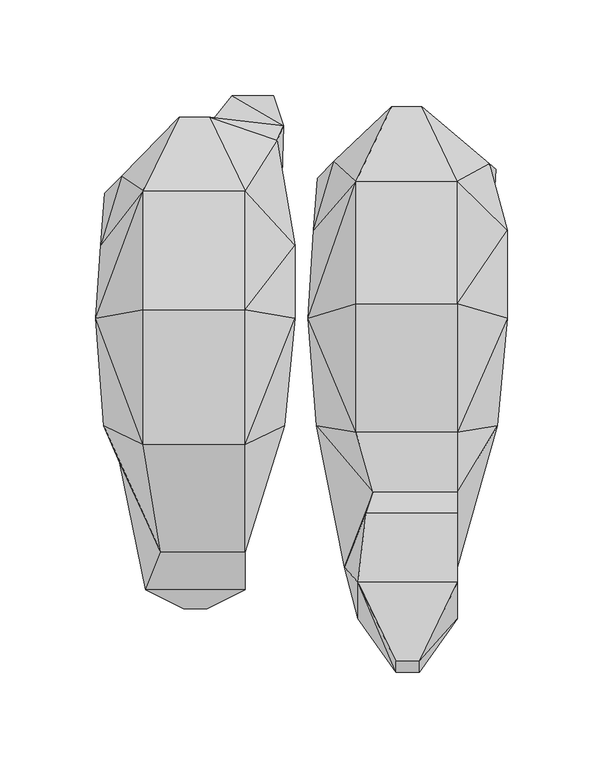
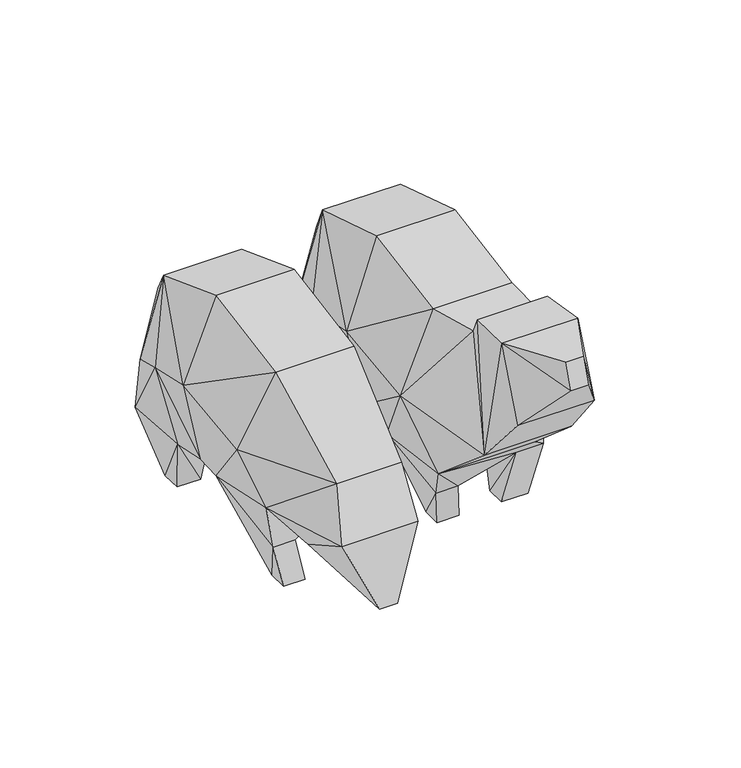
"""IFC4 building model written with IfcOpenShell, lengths in millimetres: geographic element geometry, Enscape AssetDefinition - Decorative Goods 012 Bears : Enscape AssetDefinition - Decorative Goods 012 Bears."""

from ifc_helpers import new_model, si_unit, origin, place, context, project, spatial, triangles, source, transform, mapped, element, save


def geographic_element_5f6d6c8c(model_context):
    return source(origin(), model_context, "Body", "Tessellation", [
        triangles([(-100.8496582, 9.5456655, 48.033973), (-105.3519724, -23.2223811, 88.2708838), (-88.986665, -36.1778449, 0.0), (-109.734363, 32.961853, 102.1481164), (-84.6395739, -33.102751, 142.989219), (-106.8692036, 71.3574495, 90.5186482), (-31.404592, 37.488255, 155.78911), (-84.639583, 37.488255, 155.78911), (-5.2185876, 71.3574495, 90.5186482), (-31.4045875, 99.9180563, 132.2156942), (-5.2185876, 32.9990078, 102.1481164), (-10.584249, -23.2223811, 88.2708838), (-31.4045806, -33.102751, 142.989219), (-13.0433081, 72.6740524, 45.1784015), (-14.5491823, 126.3462306, 71.1869748), (-11.1856885, 133.9478014, 45.8310915), (-50.0301312, 138.3714413, 93.2456438), (-17.6860219, 135.4166889, 0.5045362), (-38.036332, 149.6467887, -0.2477396), (-50.754174, 133.9478014, 40.7114322), (-84.639583, 99.9180563, 132.2156942), (-96.0213646, 107.5126872, 71.1869748), (-66.0140302, 138.3714413, 93.2456438), (-72.4474629, 116.1317105, 66.4560135), (-101.8673105, 26.9371299, 50.1142467), (-104.7751908, 98.4237343, 45.1252707), (-102.2912581, 52.4975133, 45.1784015), (-74.8784373, 58.6948003, 45.1784015), (-92.5362939, 69.9902182, 0.5045396), (-38.0374856, 9.5456667, 48.033973), (-17.648347, 26.9371276, 50.1142467), (-76.4264669, 69.9902182, 0.5045396), (-39.2293052, 135.4166889, 0.5045362), (-77.5699654, 107.1194245, 45.1252707), (-35.1707411, 67.6716416, 45.1784015), (-92.5362939, 84.2203317, -0.2477295), (-16.4930465, 149.6467887, -0.2477396), (-76.4264669, 84.2203317, -0.2477295), (-27.2322472, 7.9461021, 0.0), (-45.3602672, 7.9461021, 0.0), (-27.2322517, -5.2037726, 0.0), (-19.9870794, -17.6241513, 36.762216), (-19.9870794, 9.5456667, 48.033973), (-45.3602718, -5.2037726, 0.0), (-31.4045806, -42.6980297, 55.4107802), (-38.1150972, -17.6241513, 36.762216), (-74.0731858, -36.1778449, 0.0), (-77.7326463, -43.5097125, 25.9195071), (-86.0277522, 9.5456667, 48.033973), (-92.6461164, -43.5097125, 25.9195071), (-88.986665, -49.3277213, 0.0), (-74.0731858, -49.3277213, 0.0), (-83.4394836, -108.9824013, 62.7311773), (-97.0691204, -42.6980297, 55.4107802), (-75.5305232, -89.4980528, 93.5271219), (-31.4045875, -108.9824013, 62.7311819), (-83.4394836, -68.8396844, 40.0924701), (-63.6640101, -119.0848824, 16.6825505), (-31.4045852, -68.8396753, 40.0924701), (-51.1800655, -119.0848824, 16.6825505), (-51.180061, -99.7383525, 15.8542149), (-31.4045852, -89.4980528, 93.5271219), (-63.6640101, -99.7383616, 15.8542194), (18.686574, -43.5097125, 25.9195071), (22.3460288, -24.9201177, 0.0), (10.4830311, 0.2390188, 44.9739899), (22.3460288, -38.0699941, 0.0), (37.2595035, -24.9201177, 0.0), (37.2595035, -38.0699941, 0.0), (33.6000476, -43.5097125, 25.9195071), (25.3049439, 0.2390197, 44.9739899), (73.2175876, -44.1606039, 36.762216), (73.2952036, 0.2390197, 44.9739899), (91.3456053, 0.2390197, 44.9739899), (65.9724175, -38.496769, 0.0), (65.9724175, -25.3468972, 0.0), (84.1004444, -25.3468949, 0.0), (91.3456053, -44.1606039, 36.762216), (84.1004353, -38.496769, 0.0), (79.9281064, -54.1356854, 47.7989901), (100.7484471, -23.2223811, 88.2708838), (20.6852654, -97.2012708, 85.0964592), (5.9807248, -23.2223811, 88.2708838), (14.2635677, -54.1356854, 47.7989901), (9.4653834, 26.9371321, 50.1142467), (35.8021706, -57.9379515, 145.7426847), (1.5983272, 32.961853, 102.1481164), (4.4634891, 79.2113442, 90.5186482), (26.6931222, -26.7310219, 145.9720402), (26.6931086, 40.6454524, 157.6345642), (9.0414335, 60.3513989, 45.1784015), (26.6931086, 104.7559877, 137.4512486), (45.3186591, 143.7699763, 94.9221312), (79.9281064, 104.7559877, 137.4512486), (61.3025627, 143.7699763, 94.9221312), (60.7289694, 124.8764802, 68.1062853), (96.7835001, 113.8926212, 71.1869748), (38.8852264, 123.9855916, 66.4560135), (15.3113213, 115.3665773, 71.1869748), (60.5785153, 111.10233, 40.7114322), (100.1470121, 111.10233, 45.8310915), (106.1141079, 79.2113351, 90.5186482), (79.9280882, 40.6454524, 157.6345642), (106.1141079, 32.9990078, 102.1481164), (98.2893948, 80.5279426, 45.1784015), (93.646664, 87.3019659, 0.5045362), (73.2963527, 101.5320838, -0.2477379), (72.1033796, 87.301984, 0.5045362), (94.8396417, 101.5320838, -0.2477379), (76.1619436, 75.5255226, 45.1784015), (93.6843434, 26.9371299, 50.1142467), (36.4542497, 66.5486905, 45.1784015), (34.9062201, 88.0386124, 0.504543), (18.7963977, 102.2687213, -0.2477312), (34.9062201, 102.2687122, -0.2477312), (43.9528813, 114.9733237, 40.6133958), (6.5575014, 106.2776154, 45.1252707), (18.7963977, 88.0386124, 0.504543), (79.9281064, -26.7310287, 145.9720402), (79.9281064, -57.9379515, 145.7426847), (79.9281064, -69.1366639, 161.9399155), (79.9281064, -97.2012799, 85.0964592), (32.0758083, -69.1366639, 161.9399155), (79.9281064, -105.119047, 168.0855978), (60.1526192, -146.5547263, 172.7080627), (27.8932125, -105.119047, 168.0855978), (47.6686837, -146.5547263, 172.7080627), (79.9281064, -124.1902666, 120.507697), (60.1526192, -152.4044329, 155.7498864), (27.8932034, -124.1902575, 120.507697), (47.6686747, -152.4044147, 155.7499045)], [[129, 125, 131], [125, 127, 131], [126, 131, 127], [126, 130, 131], [131, 130, 129], [130, 128, 129], [128, 125, 129], [124, 126, 127], [128, 124, 125], [125, 124, 127], [124, 123, 126], [82, 130, 126], [82, 126, 123], [130, 82, 122], [130, 122, 128], [121, 124, 128], [124, 121, 123], [121, 128, 122], [82, 123, 86], [121, 86, 123], [121, 120, 86], [120, 121, 122], [119, 89, 86], [120, 119, 86], [89, 119, 103], [104, 103, 119], [118, 114, 115], [116, 117, 99], [114, 117, 116], [114, 116, 115], [115, 116, 113], [118, 115, 113], [91, 118, 113], [91, 117, 114], [91, 114, 118], [116, 112, 113], [91, 113, 112], [111, 91, 112], [111, 112, 110], [112, 116, 110], [116, 100, 110], [100, 108, 110], [100, 107, 108], [109, 108, 107], [109, 106, 108], [106, 110, 108], [101, 109, 107], [101, 107, 100], [101, 106, 109], [106, 105, 110], [101, 105, 106], [104, 111, 105], [111, 110, 105], [103, 104, 102], [104, 105, 102], [105, 101, 97], [101, 100, 97], [102, 105, 97], [96, 97, 100], [100, 116, 98], [100, 98, 96], [116, 99, 98], [99, 93, 98], [98, 93, 95], [95, 97, 96], [98, 95, 96], [94, 102, 97], [94, 97, 95], [103, 102, 94], [90, 103, 94], [89, 103, 90], [95, 93, 92], [94, 95, 92], [92, 93, 99], [90, 94, 92], [117, 91, 88], [99, 88, 92], [88, 99, 117], [87, 90, 92], [89, 90, 87], [87, 92, 88], [85, 87, 88], [111, 85, 91], [85, 88, 91], [83, 82, 86], [89, 83, 86], [83, 89, 87], [85, 83, 87], [83, 84, 82], [72, 80, 84], [82, 84, 80], [82, 80, 122], [111, 104, 81], [81, 120, 122], [81, 119, 120], [81, 122, 80], [104, 119, 81], [80, 72, 78], [81, 80, 78], [78, 74, 81], [74, 111, 81], [79, 78, 72], [74, 78, 79], [79, 72, 75], [77, 79, 75], [74, 79, 77], [74, 77, 76], [75, 72, 76], [77, 75, 76], [85, 111, 73], [72, 73, 76], [111, 74, 73], [74, 76, 73], [71, 73, 72], [85, 73, 71], [84, 70, 72], [71, 72, 70], [70, 68, 71], [70, 69, 68], [67, 68, 69], [67, 65, 68], [65, 71, 68], [64, 67, 69], [84, 64, 70], [64, 69, 70], [64, 65, 67], [65, 66, 71], [64, 66, 65], [84, 83, 66], [85, 66, 83], [66, 64, 84], [66, 85, 71], [63, 57, 61], [12, 62, 45], [57, 59, 61], [57, 45, 59], [61, 60, 63], [59, 60, 61], [60, 58, 63], [57, 63, 58], [59, 56, 60], [45, 62, 56], [60, 56, 58], [45, 56, 59], [56, 62, 55], [56, 53, 58], [58, 53, 57], [56, 55, 53], [57, 54, 45], [53, 55, 54], [54, 57, 53], [45, 54, 50], [50, 51, 52], [50, 3, 51], [51, 3, 47], [51, 47, 52], [48, 52, 47], [45, 50, 48], [50, 52, 48], [48, 47, 49], [3, 49, 47], [45, 48, 46], [49, 46, 48], [45, 46, 42], [12, 45, 42], [41, 42, 46], [41, 46, 44], [43, 42, 41], [42, 43, 12], [39, 41, 44], [43, 41, 39], [43, 39, 40], [44, 46, 40], [39, 44, 40], [49, 30, 46], [46, 30, 40], [43, 40, 30], [29, 36, 38], [29, 38, 32], [37, 18, 33], [37, 33, 19], [20, 19, 33], [20, 34, 24], [38, 34, 32], [36, 34, 38], [34, 20, 35], [20, 33, 35], [18, 35, 33], [34, 28, 32], [28, 34, 35], [31, 28, 35], [31, 43, 30], [43, 31, 12], [25, 31, 30], [25, 30, 49], [27, 29, 32], [31, 27, 28], [31, 25, 27], [27, 32, 28], [27, 36, 29], [36, 26, 34], [27, 26, 36], [26, 27, 6], [25, 6, 27], [34, 26, 22], [34, 22, 24], [6, 22, 26], [24, 23, 20], [22, 23, 24], [22, 6, 21], [21, 23, 22], [17, 23, 21], [20, 23, 17], [16, 37, 19], [16, 20, 17], [16, 19, 20], [16, 18, 37], [18, 14, 35], [16, 14, 18], [31, 35, 14], [14, 16, 15], [16, 17, 15], [10, 17, 21], [10, 15, 17], [10, 9, 15], [9, 14, 15], [14, 9, 11], [31, 11, 12], [11, 31, 14], [12, 13, 62], [62, 13, 55], [11, 13, 12], [7, 11, 9], [11, 7, 13], [7, 9, 10], [8, 7, 10], [8, 10, 21], [13, 5, 55], [5, 13, 7], [5, 7, 8], [25, 4, 6], [4, 8, 21], [5, 8, 4], [4, 21, 6], [2, 54, 55], [5, 2, 55], [2, 5, 4], [25, 2, 4], [3, 1, 49], [50, 1, 3], [54, 2, 1], [25, 1, 2], [1, 50, 54], [1, 25, 49]]),
    ])


if __name__ == "__main__":
    model = new_model("IFC4")
    model_context = context("Model", 3, world=origin())
    ifc_project = project(units=[si_unit("LENGTHUNIT", "METRE", prefix="MILLI")], contexts=[model_context])
    site = spatial("IfcSite", under=ifc_project)
    building = spatial("IfcBuilding", under=site)
    placement = place(None, origin())
    geographic_element_shape = geographic_element_5f6d6c8c(model_context)
    element("IfcGeographicElement", 1, ObjectType="Enscape AssetDefinition - Decorative Goods 012 Bears : Enscape AssetDefinition - Decorative Goods 012 Bears", at=placement, inside=building, context=model_context, shape_type="MappedRepresentation", body=[
        mapped(geographic_element_shape, transform((0.0, 0.0, 0.0), x_axis=(1.0, 0.0, 0.0), y_axis=(0.0, 1.0, 0.0), z_axis=(0.0, 0.0, 1.0))),
    ])
    save(model, "model.ifc")
